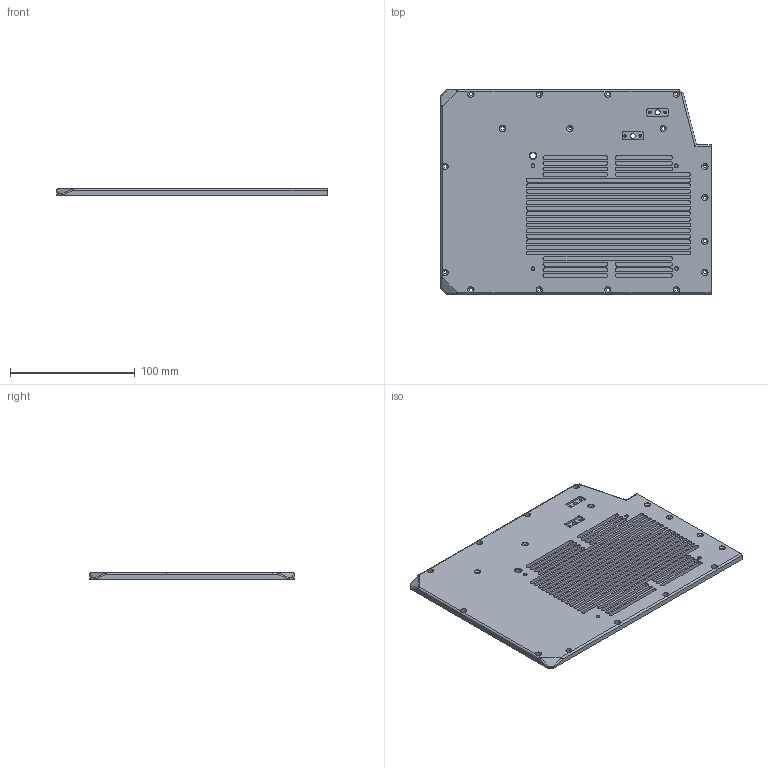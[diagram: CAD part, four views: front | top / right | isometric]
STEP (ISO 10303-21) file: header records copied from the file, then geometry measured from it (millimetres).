
FILE_DESCRIPTION (( 'STEP AP203' ), '1' );
FILE_NAME ('干扰枪-外盒体2.STEP', '2026-09-24T08:11:55', ( '' ), ( '' ), 'SwSTEP 2.0', 'SolidWorks 2016', '' );
FILE_SCHEMA (( 'CONFIG_CONTROL_DESIGN' ));
Length unit declared in the file: millimetre
Products named in the file (1): 干扰枪-外盒体2
Bounding box: 217 x 164 x 5.5 mm (x, y, z)
Volume: 95555.7 mm3; surface area: 103437.2 mm2
Topology: 1 solids, 1 shells, 585 faces, 1454 edges, 913 vertices
Faces by surface type: cylinder 318, plane 171, cone 88, sphere 8
Entity records: 17689 total; most frequent: DIRECTION 3299, CARTESIAN_POINT 3050, ORIENTED_EDGE 2900, EDGE_CURVE 1450, AXIS2_PLACEMENT_3D 1278, VERTEX_POINT 913, VECTOR 743, LINE 743
